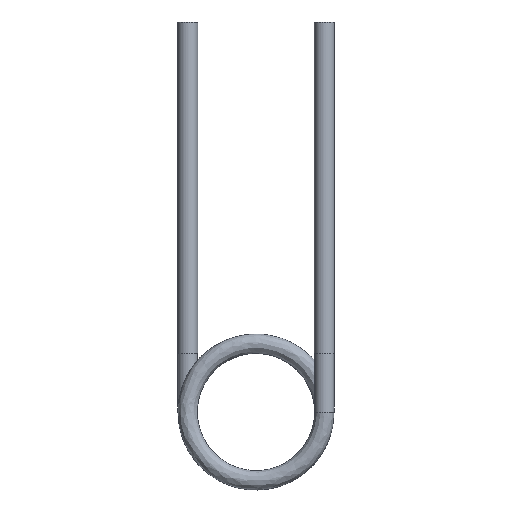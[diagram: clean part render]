
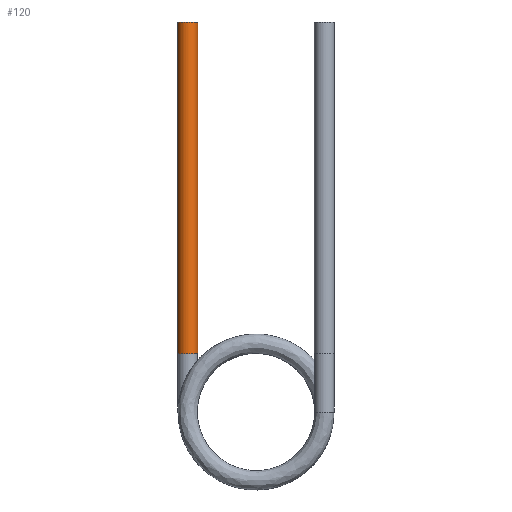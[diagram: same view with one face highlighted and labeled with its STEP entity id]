
A CAD part, left-side view. The second image highlights one B-rep face of the part: STEP entity #120.
In plain terms, the highlighted cylindrical face has radius 0.255 mm (diameter 0.51 mm), a full revolution.
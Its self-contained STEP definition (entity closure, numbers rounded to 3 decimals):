
#18=CYLINDRICAL_SURFACE($,#134,0.255);
#23=FACE_BOUND($,#40,.T.);
#29=FACE_OUTER_BOUND($,#39,.T.);
#39=EDGE_LOOP($,(#91));
#40=EDGE_LOOP($,(#92));
#52=CIRCLE($,#132,0.255);
#54=CIRCLE($,#135,0.255);
#64=VERTEX_POINT($,#195);
#66=VERTEX_POINT($,#200);
#76=EDGE_CURVE($,#64,#64,#52,.T.);
#78=EDGE_CURVE($,#66,#66,#54,.T.);
#91=ORIENTED_EDGE($,*,*,#78,.T.);
#92=ORIENTED_EDGE($,*,*,#76,.F.);
#120=ADVANCED_FACE($,(#29,#23),#18,.T.);
#132=AXIS2_PLACEMENT_3D($,#196,#155,#156);
#134=AXIS2_PLACEMENT_3D($,#199,#159,#160);
#135=AXIS2_PLACEMENT_3D($,#201,#161,#162);
#155=DIRECTION('center_axis',(0.,0.,-1.));
#156=DIRECTION('ref_axis',(-1.,0.,0.));
#159=DIRECTION('center_axis',(0.,0.,1.));
#160=DIRECTION('ref_axis',(-1.,0.,0.));
#161=DIRECTION('center_axis',(0.,0.,-1.));
#162=DIRECTION('ref_axis',(-1.,0.,0.));
#195=CARTESIAN_POINT('',(0.255,3.146,1.5));
#196=CARTESIAN_POINT('Origin',(0.,3.146,1.5));
#199=CARTESIAN_POINT('Origin',(0.,3.146,1.5));
#200=CARTESIAN_POINT('',(0.255,3.146,10.));
#201=CARTESIAN_POINT('Origin',(0.,3.146,10.));
